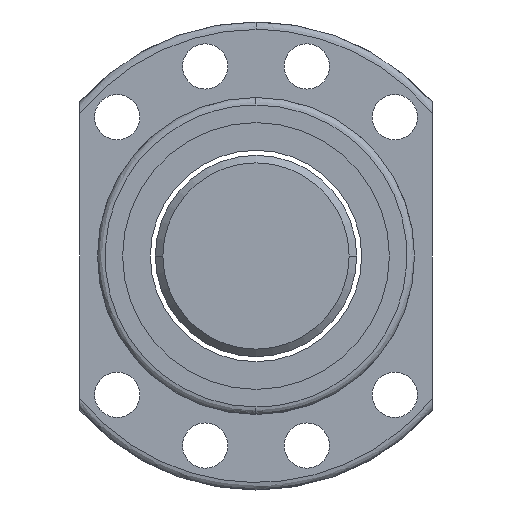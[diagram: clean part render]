
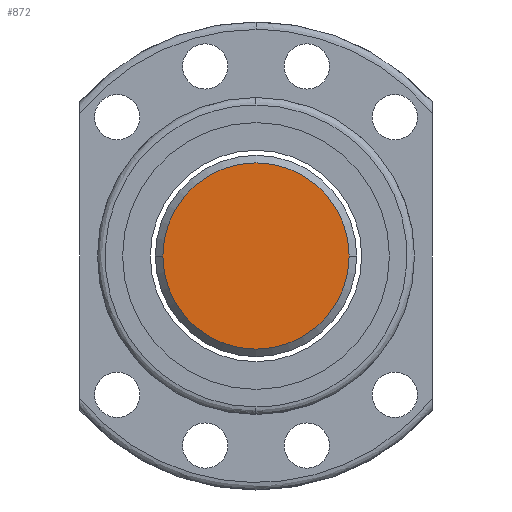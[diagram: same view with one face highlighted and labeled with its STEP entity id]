
A CAD part, left-side view. The second image highlights one B-rep face of the part: STEP entity #872.
In plain terms, the highlighted planar face has unit normal (-1, 0, 0).
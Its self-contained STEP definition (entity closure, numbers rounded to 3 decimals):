
#833 = EDGE_CURVE ( 'NONE', #901, #907, #2167, .T. ) ;
#869 = ORIENTED_EDGE ( 'NONE', *, *, #964, .F. ) ;
#872 = ADVANCED_FACE ( 'NONE', ( #2252 ), #2308, .T. ) ;
#901 = VERTEX_POINT ( 'NONE', #2374 ) ;
#907 = VERTEX_POINT ( 'NONE', #2361 ) ;
#960 = EDGE_LOOP ( 'NONE', ( #869, #1000 ) ) ;
#964 = EDGE_CURVE ( 'NONE', #907, #901, #2428, .T. ) ;
#1000 = ORIENTED_EDGE ( 'NONE', *, *, #833, .F. ) ;
#2143 = CARTESIAN_POINT ( 'NONE',  ( -205., 0., 0. ) ) ;
#2145 = DIRECTION ( 'NONE',  ( 1., 0., 0. ) ) ;
#2152 = AXIS2_PLACEMENT_3D ( 'NONE', #2143, #2145, #2202 ) ;
#2167 = CIRCLE ( 'NONE', #2152, 18.5 ) ;
#2202 = DIRECTION ( 'NONE',  ( 0., 1., 0. ) ) ;
#2252 = FACE_OUTER_BOUND ( 'NONE', #960, .T. ) ;
#2258 = AXIS2_PLACEMENT_3D ( 'NONE', #2307, #2301, #2300 ) ;
#2300 = DIRECTION ( 'NONE',  ( 0., 0., 1. ) ) ;
#2301 = DIRECTION ( 'NONE',  ( -1., 0., 0. ) ) ;
#2307 = CARTESIAN_POINT ( 'NONE',  ( -205., 10., 0. ) ) ;
#2308 = PLANE ( 'NONE',  #2258 ) ;
#2361 = CARTESIAN_POINT ( 'NONE',  ( -205., 18.5, 0. ) ) ;
#2374 = CARTESIAN_POINT ( 'NONE',  ( -205., -18.5, 0. ) ) ;
#2428 = CIRCLE ( 'NONE', #2445, 18.5 ) ;
#2443 = DIRECTION ( 'NONE',  ( 0., 1., 0. ) ) ;
#2444 = DIRECTION ( 'NONE',  ( 1., 0., 0. ) ) ;
#2445 = AXIS2_PLACEMENT_3D ( 'NONE', #2448, #2444, #2443 ) ;
#2448 = CARTESIAN_POINT ( 'NONE',  ( -205., 0., 0. ) ) ;
